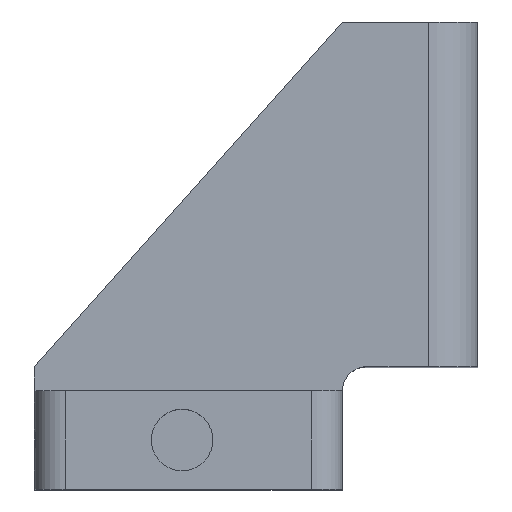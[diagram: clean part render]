
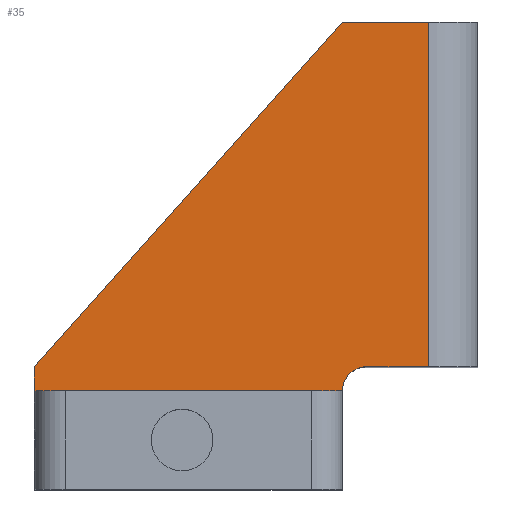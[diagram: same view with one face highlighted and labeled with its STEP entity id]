
A CAD part, top view. The second image highlights one B-rep face of the part: STEP entity #35.
In plain terms, the highlighted planar face has unit normal (0, 0, 1).
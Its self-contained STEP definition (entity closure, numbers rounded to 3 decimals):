
#35 = ADVANCED_FACE ( 'NONE', ( #2285 ), #2390, .F. ) ;
#111 = LINE ( 'NONE', #1046, #484 ) ;
#117 = CARTESIAN_POINT ( 'NONE',  ( -18., 10., 8. ) ) ;
#127 = ORIENTED_EDGE ( 'NONE', *, *, #2356, .T. ) ;
#191 = DIRECTION ( 'NONE',  ( 1., 0., 0. ) ) ;
#200 = CARTESIAN_POINT ( 'NONE',  ( 9., 8., 8. ) ) ;
#265 = EDGE_CURVE ( 'NONE', #1384, #519, #1550, .T. ) ;
#270 = CARTESIAN_POINT ( 'NONE',  ( -18., 8., 8. ) ) ;
#332 = DIRECTION ( 'NONE',  ( 0., -1., 0. ) ) ;
#346 = CARTESIAN_POINT ( 'NONE',  ( -18., 8., 8. ) ) ;
#426 = AXIS2_PLACEMENT_3D ( 'NONE', #270, #516, #1953 ) ;
#449 = CIRCLE ( 'NONE', #2598, 2. ) ;
#453 = EDGE_CURVE ( 'NONE', #2638, #817, #922, .T. ) ;
#469 = CARTESIAN_POINT ( 'NONE',  ( 14., 38., 8. ) ) ;
#484 = VECTOR ( 'NONE', #2673, 1000. ) ;
#501 = VERTEX_POINT ( 'NONE', #117 ) ;
#516 = DIRECTION ( 'NONE',  ( 0., 0., -1. ) ) ;
#519 = VERTEX_POINT ( 'NONE', #2468 ) ;
#595 = EDGE_CURVE ( 'NONE', #1878, #519, #768, .T. ) ;
#671 = VECTOR ( 'NONE', #769, 1000. ) ;
#720 = ORIENTED_EDGE ( 'NONE', *, *, #453, .T. ) ;
#762 = EDGE_CURVE ( 'NONE', #1125, #1878, #1094, .T. ) ;
#768 = LINE ( 'NONE', #2777, #2313 ) ;
#769 = DIRECTION ( 'NONE',  ( 1., 0., 0. ) ) ;
#817 = VERTEX_POINT ( 'NONE', #1890 ) ;
#835 = EDGE_CURVE ( 'NONE', #1125, #501, #111, .T. ) ;
#866 = CARTESIAN_POINT ( 'NONE',  ( -18., 38., 8. ) ) ;
#922 = LINE ( 'NONE', #1391, #671 ) ;
#1046 = CARTESIAN_POINT ( 'NONE',  ( 7., 38., 8. ) ) ;
#1055 = ORIENTED_EDGE ( 'NONE', *, *, #595, .F. ) ;
#1094 = LINE ( 'NONE', #866, #1521 ) ;
#1125 = VERTEX_POINT ( 'NONE', #2761 ) ;
#1384 = VERTEX_POINT ( 'NONE', #1727 ) ;
#1391 = CARTESIAN_POINT ( 'NONE',  ( -18., 8., 8. ) ) ;
#1437 = LINE ( 'NONE', #346, #1959 ) ;
#1462 = DIRECTION ( 'NONE',  ( 0., 0., 1. ) ) ;
#1521 = VECTOR ( 'NONE', #2307, 1000. ) ;
#1550 = LINE ( 'NONE', #2820, #1940 ) ;
#1597 = ORIENTED_EDGE ( 'NONE', *, *, #2470, .F. ) ;
#1603 = ORIENTED_EDGE ( 'NONE', *, *, #835, .T. ) ;
#1727 = CARTESIAN_POINT ( 'NONE',  ( 9., 10., 8. ) ) ;
#1878 = VERTEX_POINT ( 'NONE', #469 ) ;
#1890 = CARTESIAN_POINT ( 'NONE',  ( 7., 8., 8. ) ) ;
#1924 = CARTESIAN_POINT ( 'NONE',  ( -18., 8., 8. ) ) ;
#1940 = VECTOR ( 'NONE', #191, 1000. ) ;
#1953 = DIRECTION ( 'NONE',  ( 1., 0., 0. ) ) ;
#1959 = VECTOR ( 'NONE', #332, 1000. ) ;
#2285 = FACE_OUTER_BOUND ( 'NONE', #2426, .T. ) ;
#2307 = DIRECTION ( 'NONE',  ( 1., 0., 0. ) ) ;
#2313 = VECTOR ( 'NONE', #2518, 1000. ) ;
#2356 = EDGE_CURVE ( 'NONE', #501, #2638, #1437, .T. ) ;
#2390 = PLANE ( 'NONE',  #426 ) ;
#2426 = EDGE_LOOP ( 'NONE', ( #2586, #1603, #127, #720, #1597, #2762, #1055 ) ) ;
#2468 = CARTESIAN_POINT ( 'NONE',  ( 14., 10., 8. ) ) ;
#2470 = EDGE_CURVE ( 'NONE', #1384, #817, #449, .T. ) ;
#2518 = DIRECTION ( 'NONE',  ( 0., -1., 0. ) ) ;
#2586 = ORIENTED_EDGE ( 'NONE', *, *, #762, .F. ) ;
#2598 = AXIS2_PLACEMENT_3D ( 'NONE', #200, #1462, #2832 ) ;
#2638 = VERTEX_POINT ( 'NONE', #1924 ) ;
#2673 = DIRECTION ( 'NONE',  ( -0.666, -0.746, 0. ) ) ;
#2761 = CARTESIAN_POINT ( 'NONE',  ( 7., 38., 8. ) ) ;
#2762 = ORIENTED_EDGE ( 'NONE', *, *, #265, .T. ) ;
#2777 = CARTESIAN_POINT ( 'NONE',  ( 14., 10., 8. ) ) ;
#2820 = CARTESIAN_POINT ( 'NONE',  ( 18., 10., 8. ) ) ;
#2832 = DIRECTION ( 'NONE',  ( 1., 0., 0. ) ) ;
